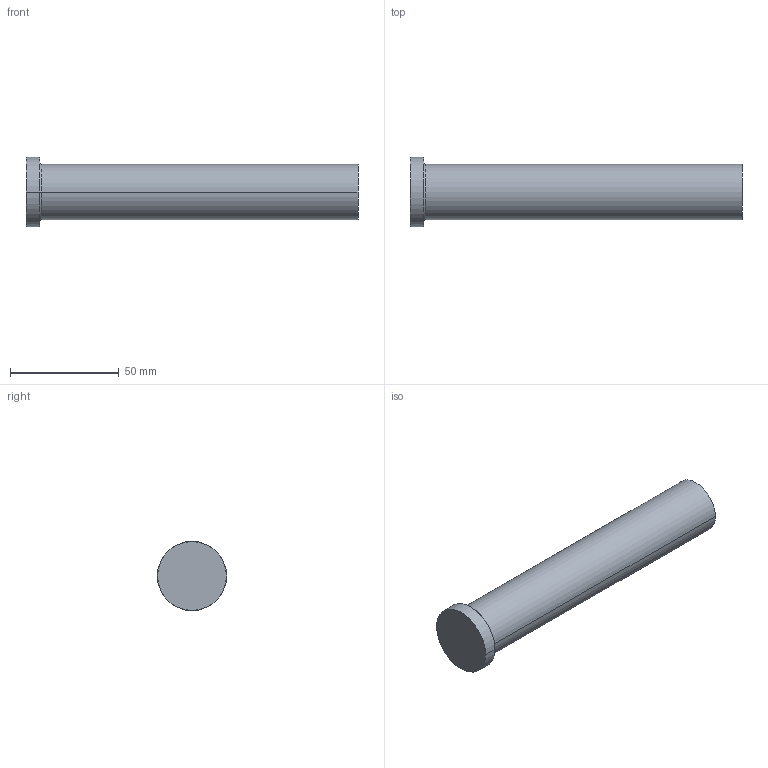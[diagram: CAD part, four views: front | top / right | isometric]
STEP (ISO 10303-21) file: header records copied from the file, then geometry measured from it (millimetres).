
FILE_DESCRIPTION (( 'STEP AP214' ), '1' );
FILE_NAME ('P47-6.STEP', '2020-03-12T12:25:58', ( '' ), ( '' ), 'SwSTEP 2.0', 'SolidWorks 2018', '' );
FILE_SCHEMA (( 'AUTOMOTIVE_DESIGN' ));
Length unit declared in the file: inch
Products named in the file (1): P47-6
Bounding box: 152.4 x 31.75 x 31.75 mm (x, y, z)
Volume: 78967.2 mm3; surface area: 13827.6 mm2
Topology: 1 solids, 1 shells, 13 faces, 24 edges, 14 vertices
Faces by surface type: cone 4, cylinder 4, plane 3, torus 2
Entity records: 366 total; most frequent: DIRECTION 68, CARTESIAN_POINT 52, ORIENTED_EDGE 48, AXIS2_PLACEMENT_3D 30, EDGE_CURVE 24, CIRCLE 16, VERTEX_POINT 14, EDGE_LOOP 14
